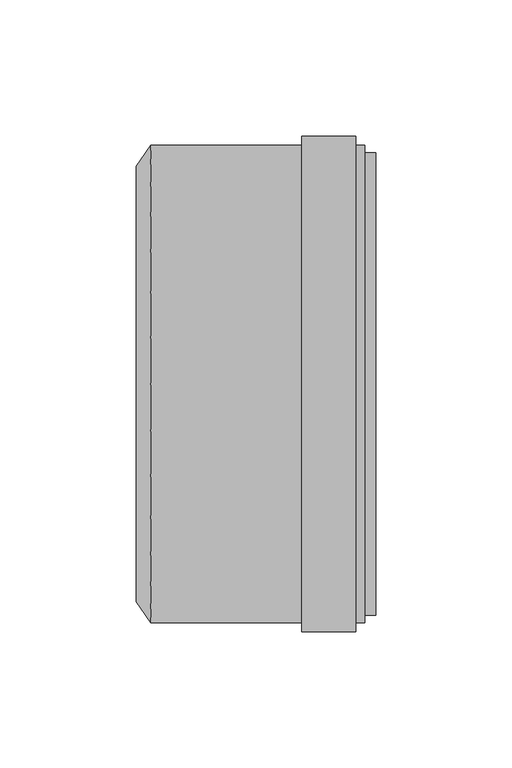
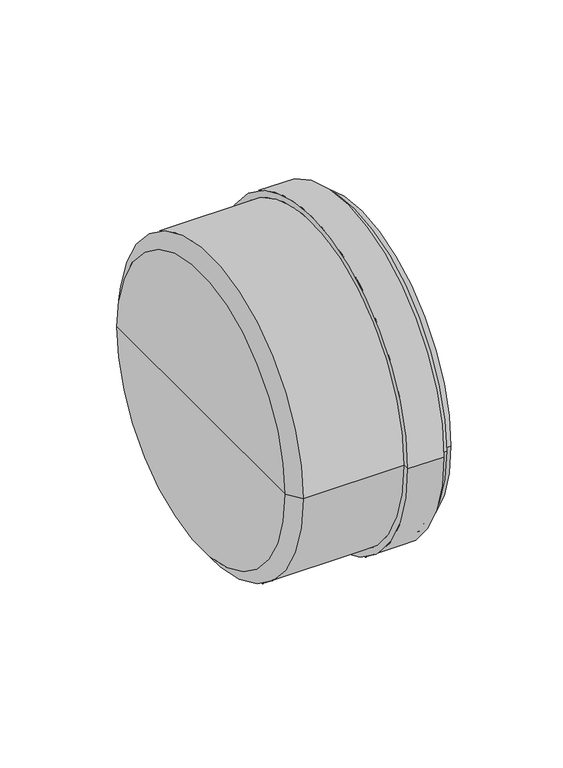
"""IFC4 building model written with IfcOpenShell, lengths in millimetres: pipe fitting geometry, pf_KGM_zatka : pf_KGM_zatka."""

from ifc_helpers import new_model, si_unit, frame, origin, place, context, project, spatial, polyline, circle_curve, source, transform, mapped, element, save
from ifc_brep_helpers import plane_surface, cylinder_surface, revolved_surface, advanced_brep


def pipe_fitting_b8d6450d(model_context):
    return source(origin(), model_context, "Body", "AdvancedBrep", [
        advanced_brep(
        [(-84.0, -80.0, 0.0), (-84.0, 80.0, 0.0), (-78.6, 87.6, 0.0), (-78.6, -87.6, 0.0), (-84.0, 0.0, 0.0), (0.0, -87.6, 0.0), (0.0, 87.6, 0.0), (0.0, 80.0, 0.0), (0.0, -80.0, 0.0), (-3.4, -87.6, 0.0), (-3.4, 87.6, 0.0), (-3.4, -91.0, 0.0), (-3.4, 91.0, 0.0), (-23.1, -91.0, 0.0), (-23.1, 91.0, 0.0), (-23.1, -87.6, 0.0), (-23.1, 87.6, 0.0), (-78.6, -80.0, 0.0), (-78.6, 80.0, 0.0), (-78.6, 0.0, 0.0)],
        [
            (0, 1, circle_curve(frame((-84.0, 0.0, 0.0), z_axis=(1.0, 0.0, 0.0), x_axis=(0.0, 1.0, 0.0)), 80.0)),
            (1, 2),
            (2, 3, circle_curve(frame((-78.6, 0.0, 0.0), z_axis=(-1.0, 0.0, 0.0), x_axis=(0.0, 1.0, 0.0)), 87.6)),
            (3, 0),
            (1, 0, circle_curve(frame((-84.0, 0.0, 0.0), z_axis=(1.0, 0.0, 0.0), x_axis=(0.0, 1.0, 0.0)), 80.0)),
            (3, 2, circle_curve(frame((-78.6, 0.0, 0.0), z_axis=(-1.0, 0.0, 0.0), x_axis=(0.0, 1.0, 0.0)), 87.6)),
            (4, 1),
            (0, 4),
            (5, 6, circle_curve(frame((0.0, 0.0, 0.0), z_axis=(1.0, 0.0, 0.0), x_axis=(0.0, 1.0, 0.0)), 87.6)),
            (6, 7),
            (7, 8, circle_curve(frame((0.0, 0.0, 0.0), z_axis=(-1.0, 0.0, 0.0), x_axis=(0.0, 1.0, 0.0)), 80.0)),
            (8, 5),
            (6, 5, circle_curve(frame((0.0, 0.0, 0.0), z_axis=(1.0, 0.0, 0.0), x_axis=(0.0, 1.0, 0.0)), 87.6)),
            (8, 7, circle_curve(frame((0.0, 0.0, 0.0), z_axis=(-1.0, 0.0, 0.0), x_axis=(0.0, 1.0, 0.0)), 80.0)),
            (9, 10, circle_curve(frame((-3.4, 0.0, 0.0), z_axis=(1.0, 0.0, 0.0), x_axis=(0.0, 1.0, 0.0)), 87.6)),
            (10, 6),
            (5, 9),
            (10, 9, circle_curve(frame((-3.4, 0.0, 0.0), z_axis=(1.0, 0.0, 0.0), x_axis=(0.0, 1.0, 0.0)), 87.6)),
            (11, 12, circle_curve(frame((-3.4, 0.0, 0.0), z_axis=(1.0, 0.0, 0.0), x_axis=(0.0, 1.0, 0.0)), 91.0)),
            (12, 10),
            (9, 11),
            (12, 11, circle_curve(frame((-3.4, 0.0, 0.0), z_axis=(1.0, 0.0, 0.0), x_axis=(0.0, 1.0, 0.0)), 91.0)),
            (13, 14, circle_curve(frame((-23.1, 0.0, 0.0), z_axis=(1.0, 0.0, 0.0), x_axis=(0.0, 1.0, 0.0)), 91.0)),
            (14, 12),
            (11, 13),
            (14, 13, circle_curve(frame((-23.1, 0.0, 0.0), z_axis=(1.0, 0.0, 0.0), x_axis=(0.0, 1.0, 0.0)), 91.0)),
            (15, 16, circle_curve(frame((-23.1, 0.0, 0.0), z_axis=(1.0, 0.0, 0.0), x_axis=(0.0, 1.0, 0.0)), 87.6)),
            (16, 14),
            (13, 15),
            (16, 15, circle_curve(frame((-23.1, 0.0, 0.0), z_axis=(1.0, 0.0, 0.0), x_axis=(0.0, 1.0, 0.0)), 87.6)),
            (2, 16),
            (15, 3),
            (17, 18, circle_curve(frame((-78.6, 0.0, 0.0), z_axis=(1.0, 0.0, 0.0), x_axis=(0.0, 1.0, 0.0)), 80.0)),
            (18, 19),
            (19, 17),
            (18, 17, circle_curve(frame((-78.6, 0.0, 0.0), z_axis=(1.0, 0.0, 0.0), x_axis=(0.0, 1.0, 0.0)), 80.0)),
            (7, 18),
            (17, 8),
        ],
        [
            revolved_surface(polyline([(-78.6, 87.6, 0.0), (-84.0, 80.0, 0.0)]), (-84.0, 0.0, 0.0), (-1.0, 0.0, 0.0)),
            plane_surface(frame((-84.0, 0.0, 0.0), z_axis=(-1.0, 0.0, 0.0), x_axis=(0.0, 1.0, 0.0))),
            plane_surface(frame((0.0, 0.0, 0.0), z_axis=(1.0, 0.0, 0.0), x_axis=(0.0, 1.0, 0.0))),
            cylinder_surface(frame((-84.0, 0.0, 0.0), z_axis=(-1.0, 0.0, 0.0), x_axis=(0.0, 1.0, 0.0)), 87.6),
            plane_surface(frame((-3.4, 0.0, 0.0), z_axis=(1.0, 0.0, 0.0), x_axis=(0.0, 1.0, 0.0))),
            cylinder_surface(frame((-84.0, 0.0, 0.0), z_axis=(-1.0, 0.0, 0.0), x_axis=(0.0, 1.0, 0.0)), 91.0),
            plane_surface(frame((-23.1, 0.0, 0.0), z_axis=(-1.0, 0.0, 0.0), x_axis=(0.0, 1.0, 0.0))),
            plane_surface(frame((-78.6, 0.0, 0.0), z_axis=(1.0, 0.0, 0.0), x_axis=(0.0, 1.0, 0.0))),
            revolved_surface(polyline([(-78.6, 80.0, 0.0), (0.0, 80.0, 0.0)]), (-84.0, 0.0, 0.0), (-1.0, 0.0, 0.0)),
        ],
        [
            (0, [[1, 2, 3, 4]]),
            (0, [[5, -4, 6, -2]]),
            (1, [[7, -1, 8]]),
            (1, [[-8, -5, -7]]),
            (2, [[9, 10, 11, 12]]),
            (2, [[13, -12, 14, -10]]),
            (3, [[15, 16, -9, 17]]),
            (3, [[18, -17, -13, -16]]),
            (4, [[19, 20, -15, 21]]),
            (4, [[22, -21, -18, -20]]),
            (5, [[23, 24, -19, 25]]),
            (5, [[26, -25, -22, -24]]),
            (6, [[27, 28, -23, 29]]),
            (6, [[30, -29, -26, -28]]),
            (3, [[-3, 31, -27, 32]]),
            (3, [[-6, -32, -30, -31]]),
            (7, [[33, 34, 35]]),
            (7, [[36, -35, -34]]),
            (8, [[-11, 37, -33, 38]]),
            (8, [[-14, -38, -36, -37]]),
        ],
    ),
        advanced_brep(
        [(-53.0, 0.0, 0.0), (-53.0, 80.0, 0.0), (-53.0, -80.0, 0.0), (4.0, -84.94, 0.0), (4.0, 84.94, 0.0), (4.0, 0.0, 0.0), (0.0, -84.94, 0.0), (0.0, 84.94, 0.0), (0.0, -80.94, 0.0), (0.0, 80.94, 0.0), (-49.0, -80.94, 0.0), (-49.0, 80.94, 0.0)],
        [
            (0, 1),
            (1, 2, circle_curve(frame((-53.0, 0.0, 0.0), z_axis=(-1.0, 0.0, 0.0), x_axis=(0.0, 1.0, 0.0)), 80.0)),
            (2, 0),
            (2, 1, circle_curve(frame((-53.0, 0.0, 0.0), z_axis=(-1.0, 0.0, 0.0), x_axis=(0.0, 1.0, 0.0)), 80.0)),
            (3, 4, circle_curve(frame((4.0, 0.0, 0.0), z_axis=(1.0, 0.0, 0.0), x_axis=(0.0, 1.0, 0.0)), 84.94)),
            (4, 5),
            (5, 3),
            (4, 3, circle_curve(frame((4.0, 0.0, 0.0), z_axis=(1.0, 0.0, 0.0), x_axis=(0.0, 1.0, 0.0)), 84.94)),
            (6, 7, circle_curve(frame((0.0, 0.0, 0.0), z_axis=(1.0, 0.0, 0.0), x_axis=(0.0, 1.0, 0.0)), 84.94)),
            (7, 4),
            (3, 6),
            (7, 6, circle_curve(frame((0.0, 0.0, 0.0), z_axis=(1.0, 0.0, 0.0), x_axis=(0.0, 1.0, 0.0)), 84.94)),
            (8, 9, circle_curve(frame((0.0, 0.0, 0.0), z_axis=(1.0, 0.0, 0.0), x_axis=(0.0, 1.0, 0.0)), 80.94)),
            (9, 7),
            (6, 8),
            (9, 8, circle_curve(frame((0.0, 0.0, 0.0), z_axis=(1.0, 0.0, 0.0), x_axis=(0.0, 1.0, 0.0)), 80.94)),
            (10, 11, circle_curve(frame((-49.0, 0.0, 0.0), z_axis=(1.0, 0.0, 0.0), x_axis=(0.0, 1.0, 0.0)), 80.94)),
            (11, 9),
            (8, 10),
            (11, 10, circle_curve(frame((-49.0, 0.0, 0.0), z_axis=(1.0, 0.0, 0.0), x_axis=(0.0, 1.0, 0.0)), 80.94)),
            (1, 11),
            (10, 2),
        ],
        [
            plane_surface(frame((-53.0, 0.0, 0.0), z_axis=(-1.0, 0.0, 0.0), x_axis=(0.0, 1.0, 0.0))),
            plane_surface(frame((4.0, 0.0, 0.0), z_axis=(1.0, 0.0, 0.0), x_axis=(0.0, 1.0, 0.0))),
            cylinder_surface(frame((-52.0241529, 0.0, 0.0), z_axis=(-1.0, 0.0, 0.0), x_axis=(0.0, 1.0, 0.0)), 84.94),
            plane_surface(frame((0.0, 0.0, 0.0), z_axis=(-1.0, 0.0, 0.0), x_axis=(0.0, 1.0, 0.0))),
            cylinder_surface(frame((-52.0241529, 0.0, 0.0), z_axis=(-1.0, 0.0, 0.0), x_axis=(0.0, 1.0, 0.0)), 80.94),
            revolved_surface(polyline([(-49.0, 80.94, 0.0), (-53.0, 80.0, 0.0)]), (-52.0241529, 0.0, 0.0), (-1.0, 0.0, 0.0)),
        ],
        [
            (0, [[1, 2, 3]]),
            (0, [[-3, 4, -1]]),
            (1, [[5, 6, 7]]),
            (1, [[8, -7, -6]]),
            (2, [[9, 10, -5, 11]]),
            (2, [[12, -11, -8, -10]]),
            (3, [[13, 14, -9, 15]]),
            (3, [[16, -15, -12, -14]]),
            (4, [[17, 18, -13, 19]]),
            (4, [[20, -19, -16, -18]]),
            (5, [[-2, 21, -17, 22]]),
            (5, [[-4, -22, -20, -21]]),
        ],
    ),
    ])


if __name__ == "__main__":
    model = new_model("IFC4")
    model_context = context("Model", 3, world=origin())
    ifc_project = project(units=[si_unit("LENGTHUNIT", "METRE", prefix="MILLI")], contexts=[model_context])
    site = spatial("IfcSite", under=ifc_project)
    building = spatial("IfcBuilding", under=site)
    placement = place(None, origin())
    pipe_fitting_shape = pipe_fitting_b8d6450d(model_context)
    element("IfcPipeFitting", 1, ObjectType="pf_KGM_zatka : pf_KGM_zatka", at=placement, inside=building, context=model_context, shape_type="MappedRepresentation", body=[
        mapped(pipe_fitting_shape, transform((0.0, 0.0, 0.0), x_axis=(1.0, 0.0, 0.0), y_axis=(0.0, 1.0, 0.0), z_axis=(0.0, 0.0, 1.0))),
    ])
    save(model, "model.ifc")
